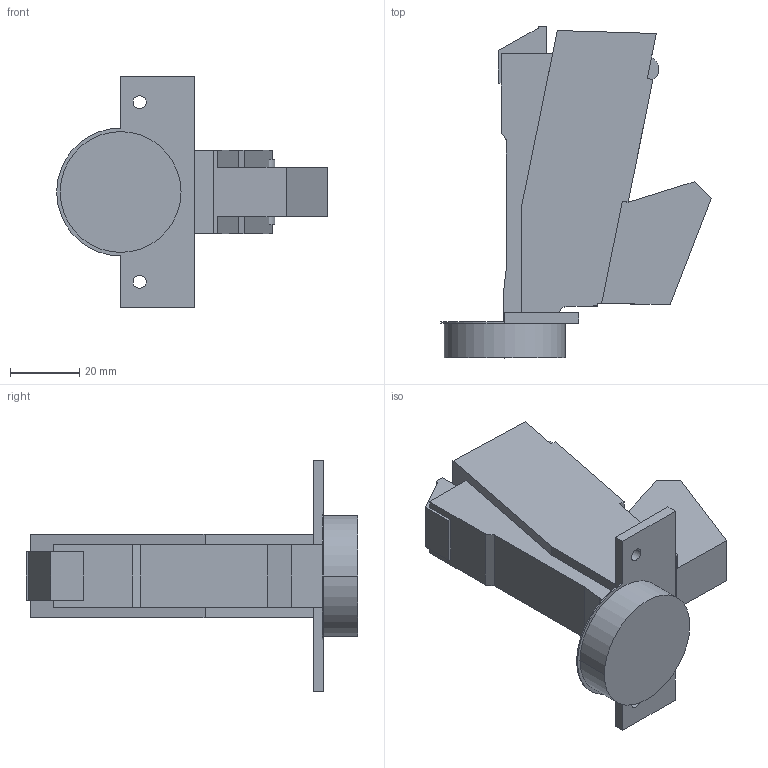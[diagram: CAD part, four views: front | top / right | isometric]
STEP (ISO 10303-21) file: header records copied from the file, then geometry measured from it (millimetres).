
FILE_DESCRIPTION (( 'STEP AP214' ), '1' );
FILE_NAME ('Scharnier TT Click-on 160° H_BB, K03.step', '2010-12-13T10:17:33', ( 'grass' ), ( '' ), 'SwSTEP 2.0', 'SolidWorks 2010', '' );
FILE_SCHEMA (( 'AUTOMOTIVE_DESIGN' ));
Length unit declared in the file: millimetre
Products named in the file (1): Scharnier TT Click-on 160° H_BB, K03
Bounding box: 78.34 x 96.09 x 67 mm (x, y, z)
Volume: 91733.6 mm3; surface area: 18829 mm2
Topology: 1 solids, 1 shells, 58 faces, 161 edges, 106 vertices
Faces by surface type: plane 49, cylinder 9
Entity records: 1873 total; most frequent: CARTESIAN_POINT 326, ORIENTED_EDGE 322, DIRECTION 297, EDGE_CURVE 161, VECTOR 143, LINE 143, VERTEX_POINT 106, AXIS2_PLACEMENT_3D 77
